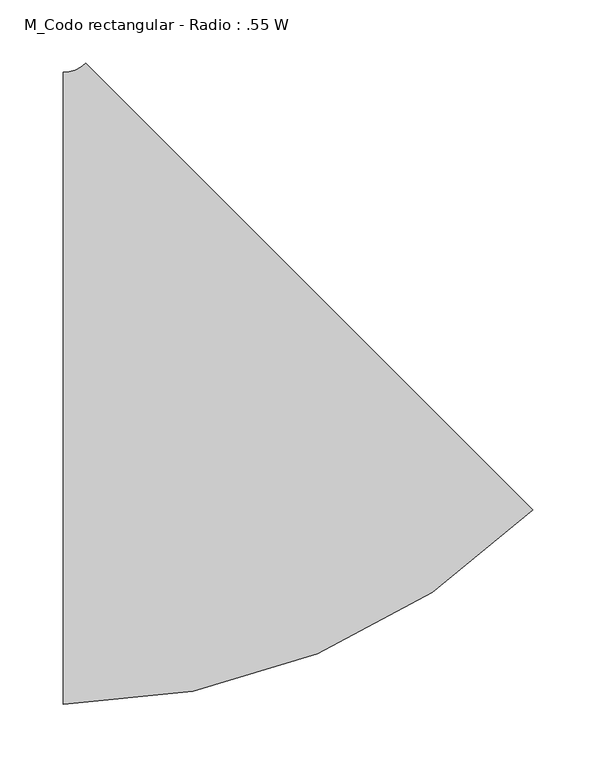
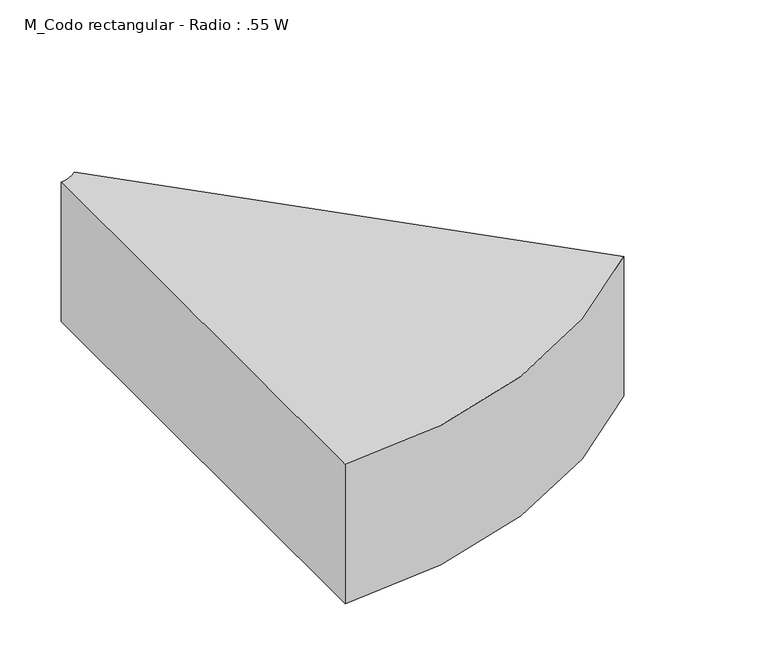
"""IFC4 building model written with IfcOpenShell, lengths in millimetres: duct fitting geometry, M_Codo rectangular - Radio : .55 W."""

from ifc_helpers import new_model, si_unit, point, frame, frame_2d, origin, place, context, project, spatial, polyline, circle_curve, trimmed, segment, composite_curve, outline, extrude, source, transform, mapped, element, save


def m_codo_rectangular_radio_55_w_1beb8c37(model_context):
    return source(origin(), model_context, "Body", "SweptSolid", [
        extrude(outline(composite_curve([segment(trimmed(circle_curve(frame_2d((-113.9087297, 275.0)), 525.0), [point((257.3223305, -96.2310601))], [point((-113.9087297, -250.0))], False, "CARTESIAN"), True, "CONTINUOUS"), segment(polyline([(-113.9087297, -250.0), (-113.9087297, 250.0)]), True, "CONTINUOUS"), segment(trimmed(circle_curve(frame_2d((-113.9087297, 275.0)), 25.0), [point((-113.9087297, 250.0))], [point((-96.2310601, 257.3223305))], True, "CARTESIAN"), True, "CONTINUOUS"), segment(polyline([(-96.2310601, 257.3223305), (257.3223305, -96.2310601)]), True, "CONTINUOUS")], self_intersect=False)), frame((0.0, 0.0, -75.0), z_axis=(0.0, 0.0, 1.0), x_axis=(1.0, 0.0, 0.0)), (0.0, 0.0, 1.0), 150.0),
    ])


if __name__ == "__main__":
    model = new_model("IFC4")
    model_context = context("Model", 3, world=origin())
    ifc_project = project(units=[si_unit("LENGTHUNIT", "METRE", prefix="MILLI")], contexts=[model_context])
    site = spatial("IfcSite", under=ifc_project)
    building = spatial("IfcBuilding", under=site)
    placement = place(None, origin())
    m_codo_rectangular_radio_55_w_shape = m_codo_rectangular_radio_55_w_1beb8c37(model_context)
    element("IfcDuctFitting", 1, ObjectType="M_Codo rectangular - Radio : .55 W", at=placement, inside=building, context=model_context, shape_type="MappedRepresentation", body=[
        mapped(m_codo_rectangular_radio_55_w_shape, transform((0.0, 0.0, 0.0), x_axis=(1.0, 0.0, 0.0), y_axis=(0.0, 1.0, 0.0), z_axis=(0.0, 0.0, 1.0))),
    ])
    save(model, "model.ifc")
